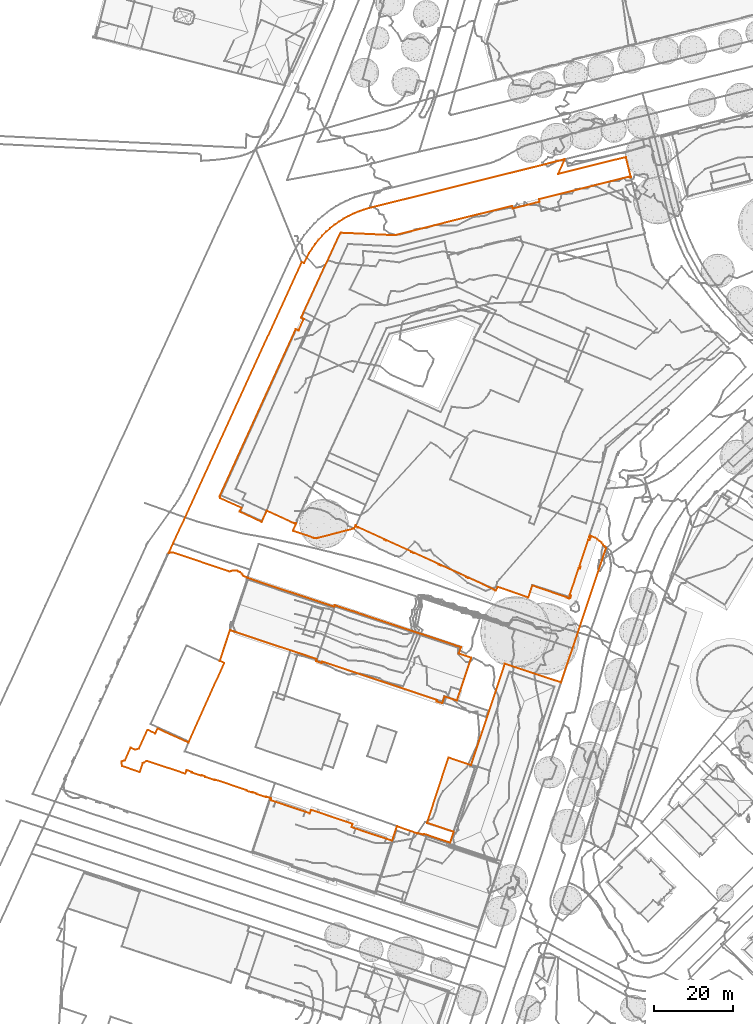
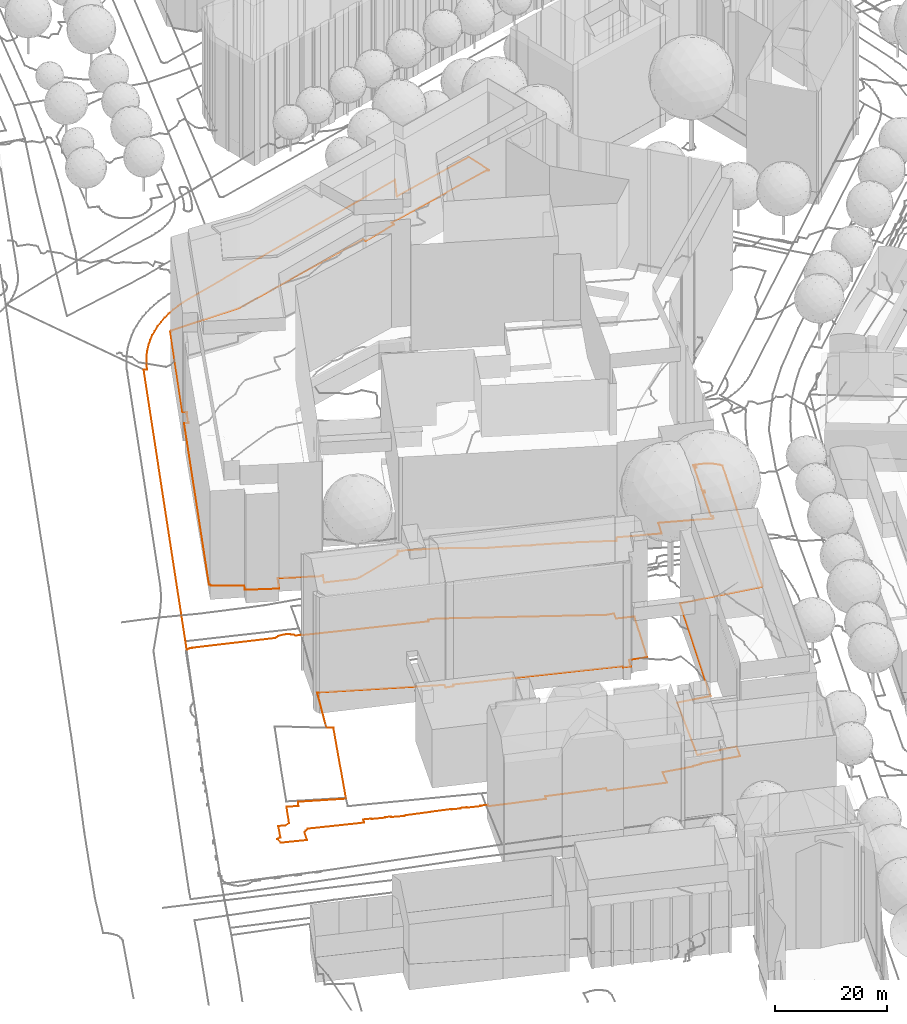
# Not in any storey, part 98 of 494: 1 proxy.
"""IFC2X3 model written with IfcOpenShell, lengths in metres."""

from ifc_helpers import new_model, entity, si_unit, frame, origin_with_axes, place, context, subcontext, project, element, save


model = new_model("IFC2X3")

# Units and contexts
model_context = context("Model", 3, precision=1e-05, world=origin_with_axes())
body_context = subcontext(model_context, "Body", "Model", "MODEL_VIEW")
ifc_project = project(units=[si_unit("AREAUNIT", "SQUARE_METRE"), si_unit("LENGTHUNIT", "METRE")], contexts=[model_context])

# Proxy
proxy_placement = place(None, frame((-44.9892679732, 153.6817160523, 527.5269118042), z_axis=(0.0, 0.0, 1.0), x_axis=(1.0, 0.0, 0.0)))
element("IfcBuildingElementProxy", 1, at=proxy_placement, Name="Roads Outline 7", ObjectType="NOTDEFINED", context=body_context, shape_type="GeometricCurveSet", body=[
    entity("IfcGeometricCurveSet", [entity("IfcPolyline", [entity("IfcCartesianPoint", [0.0, 0.0, 0.0]), entity("IfcCartesianPoint", [0.2429999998, 0.0930000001, -3.97339e-05]), entity("IfcCartesianPoint", [0.5979999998, 0.2290000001, -9.78394e-05]), entity("IfcCartesianPoint", [0.7620000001, 0.1560000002, -6.66504e-05]), entity("IfcCartesianPoint", [2.2399999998, 3.473, -0.0022536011]), entity("IfcCartesianPoint", [3.3539999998, 2.9770000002, -0.0022023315]), entity("IfcCartesianPoint", [4.3709999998, 3.318, -0.0022536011]), entity("IfcCartesianPoint", [6.5619999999, 8.0460000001, -0.0839130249]), entity("IfcCartesianPoint", [8.531, 7.135, -0.0652377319]), entity("IfcCartesianPoint", [9.1030000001, 8.3690000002, -0.0887233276]), entity("IfcCartesianPoint", [16.9929999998, 4.7920000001, -0.0132811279]), entity("IfcCartesianPoint", [26.0989999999, 25.1000000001, 0.0330283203]), entity("IfcCartesianPoint", [24.9709999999, 25.615, 0.0477704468]), entity("IfcCartesianPoint", [27.5639999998, 33.3960000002, 2.1289497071]), entity("IfcCartesianPoint", [49.6749999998, 26.0790000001, 0.4784908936]), entity("IfcCartesianPoint", [49.4950000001, 25.541, 0.3115805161]), entity("IfcCartesianPoint", [49.5809999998, 25.5120000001, 0.3105062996]), entity("IfcCartesianPoint", [50.9079999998, 25.0690000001, 0.3691649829]), entity("IfcCartesianPoint", [51.0249999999, 25.4200000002, 0.4877984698]), entity("IfcCartesianPoint", [80.395, 15.6070000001, 0.1663693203]), entity("IfcCartesianPoint", [80.2760000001, 15.2550000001, 0.1662325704]), entity("IfcCartesianPoint", [81.6239999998, 14.8050000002, 0.1895435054]), entity("IfcCartesianPoint", [82.199, 16.523, 0.357683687]), entity("IfcCartesianPoint", [85.3730000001, 15.4620000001, 0.5050322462]), entity("IfcCartesianPoint", [89.0389999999, 26.4060000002, 1.4587229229]), entity("IfcCartesianPoint", [85.8689999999, 27.4790000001, 1.4710793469]), entity("IfcCartesianPoint", [86.4040000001, 29.0970000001, 1.4060519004]), entity("IfcCartesianPoint", [84.997, 29.5530000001, 1.3153294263]), entity("IfcCartesianPoint", [55.5899999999, 39.3300000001, 4.86257316]), entity("IfcCartesianPoint", [54.3390000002, 39.7440000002, 4.8775936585]), entity("IfcCartesianPoint", [54.176, 39.7980000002, 4.8790784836]), entity("IfcCartesianPoint", [54.0469999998, 39.409, 4.7497140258]), entity("IfcCartesianPoint", [32.0129999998, 46.74, 5.0022215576]), entity("IfcCartesianPoint", [32.0490000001, 46.8490000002, 5.0026939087]), entity("IfcCartesianPoint", [31.057, 47.1800000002, 5.002531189]), entity("IfcCartesianPoint", [30.8199999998, 47.564, 5.000984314]), entity("IfcCartesianPoint", [30.5219999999, 47.9030000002, 4.9996187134]), entity("IfcCartesianPoint", [30.1699999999, 48.186, 4.991625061]), entity("IfcCartesianPoint", [29.7760000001, 48.4060000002, 4.983085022]), entity("IfcCartesianPoint", [29.3509999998, 48.557, 4.9772234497]), entity("IfcCartesianPoint", [28.977, 48.6260000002, 4.9745449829]), entity("IfcCartesianPoint", [28.5979999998, 48.6410000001, 4.9739627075]), entity("IfcCartesianPoint", [28.2199999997, 48.6020000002, 4.9754766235]), entity("IfcCartesianPoint", [27.852, 48.51, 4.9790479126]), entity("IfcCartesianPoint", [27.5, 48.3670000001, 4.984598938]), entity("IfcCartesianPoint", [13.077, 53.1830000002, 4.9722063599]), entity("IfcCartesianPoint", [13.068, 53.155, 4.9713381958]), entity("IfcCartesianPoint", [12.787, 53.2350000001, 4.9738186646]), entity("IfcCartesianPoint", [12.4939999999, 53.2410000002, 4.9740046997]), entity("IfcCartesianPoint", [12.21, 53.172, 4.9718652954]), entity("IfcCartesianPoint", [12.074, 53.1090000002, 4.9699119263]), entity("IfcCartesianPoint", [11.946, 53.03, 4.9674624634]), entity("IfcCartesianPoint", [13.0490000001, 55.4410000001, 5.0357442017]), entity("IfcCartesianPoint", [45.858, 127.213, 9.3617725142]), entity("IfcCartesianPoint", [46.4270000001, 126.966, 9.3489542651]), entity("IfcCartesianPoint", [47.037, 128.2310000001, 9.4359046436]), entity("IfcCartesianPoint", [47.7179999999, 129.4610000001, 9.5883048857]), entity("IfcCartesianPoint", [48.466, 130.6500000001, 9.6872048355]), entity("IfcCartesianPoint", [49.281, 131.7950000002, 9.7719261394]), entity("IfcCartesianPoint", [50.1579999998, 132.892, 9.8597721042]), entity("IfcCartesianPoint", [51.0949999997, 133.939, 9.9155481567]), entity("IfcCartesianPoint", [52.0899999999, 134.9310000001, 9.9998819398]), entity("IfcCartesianPoint", [53.139, 135.8660000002, 10.0029211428]), entity("IfcCartesianPoint", [54.2390000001, 136.74, 10.1154349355]), entity("IfcCartesianPoint", [55.3859999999, 137.5520000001, 10.1718491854]), entity("IfcCartesianPoint", [56.577, 138.297, 10.2006110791]), entity("IfcCartesianPoint", [57.8079999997, 138.9740000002, 10.2688017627]), entity("IfcCartesianPoint", [59.0750000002, 139.5820000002, 10.2946018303]), entity("IfcCartesianPoint", [60.3739999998, 140.1170000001, 10.3372699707]), entity("IfcCartesianPoint", [61.7009999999, 140.578, 10.4007736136]), entity("IfcCartesianPoint", [63.0520000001, 140.9640000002, 10.4372722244]), entity("IfcCartesianPoint", [112.8730000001, 153.3870000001, 11.4932763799]), entity("IfcCartesianPoint", [111.1349999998, 149.6700000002, 10.730469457]), entity("IfcCartesianPoint", [128.4270000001, 153.9720000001, 10.669809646]), entity("IfcCartesianPoint", [129.7229999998, 148.8030000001, 10.4769594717]), entity("IfcCartesianPoint", [129.5579999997, 148.7620000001, 10.4805641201]), entity("IfcCartesianPoint", [129.4329999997, 148.848, 10.4872223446]), entity("IfcCartesianPoint", [129.3960000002, 148.9990000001, 10.4940321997]), entity("IfcCartesianPoint", [128.8139999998, 148.8530000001, 10.4964823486]), entity("IfcCartesianPoint", [106.3190000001, 143.2350000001, 10.5661456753]), entity("IfcCartesianPoint", [106.4840000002, 142.574, 10.5412714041]), entity("IfcCartesianPoint", [99.6090000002, 140.8560000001, 10.3548988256]), entity("IfcCartesianPoint", [99.4440000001, 141.517, 10.4434186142]), entity("IfcCartesianPoint", [69.75, 134.101, 10.3742372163]), entity("IfcCartesianPoint", [69.193, 134.0490000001, 10.3794457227]), entity("IfcCartesianPoint", [55.824, 134.6710000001, 9.8819341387]), entity("IfcCartesianPoint", [55.8169999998, 134.5010000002, 9.8693487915]), entity("IfcCartesianPoint", [55.727, 134.4300000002, 9.8659746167]), entity("IfcCartesianPoint", [55.5720000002, 134.5010000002, 9.8746773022]), entity("IfcCartesianPoint", [45.6770000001, 113.0330000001, 8.7213396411]), entity("IfcCartesianPoint", [46.406, 112.7000000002, 8.704925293]), entity("IfcCartesianPoint", [46.2659999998, 112.3930000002, 8.6941912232]), entity("IfcCartesianPoint", [46.21, 112.419, 8.6975355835]), entity("IfcCartesianPoint", [45.1200000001, 110.0480000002, 8.5999082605]), entity("IfcCartesianPoint", [45.1809999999, 110.02, 8.5998769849]), entity("IfcCartesianPoint", [45.0559999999, 109.746, 8.5775127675]), entity("IfcCartesianPoint", [44.318, 110.0820000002, 8.5655002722]), entity("IfcCartesianPoint", [24.8819999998, 67.4820000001, 5.9784912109]), entity("IfcCartesianPoint", [25.0359999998, 67.4110000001, 5.9710765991]), entity("IfcCartesianPoint", [25.0729999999, 67.2510000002, 5.9543676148]), entity("IfcCartesianPoint", [25.0019999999, 67.0970000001, 5.9382852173]), entity("IfcCartesianPoint", [30.4869999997, 64.5860000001, 5.5750006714]), entity("IfcCartesianPoint", [30.0239999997, 63.6270000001, 5.3738397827]), entity("IfcCartesianPoint", [35.611, 61.0040000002, 5.2716972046]), entity("IfcCartesianPoint", [36.9550000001, 63.865, 5.3666201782]), entity("IfcCartesianPoint", [43.5789999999, 60.7850000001, 5.2742866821]), entity("IfcCartesianPoint", [44.1260000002, 60.5350000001, 5.2782387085]), entity("IfcCartesianPoint", [44.196, 60.689, 5.2757097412]), entity("IfcCartesianPoint", [44.3289999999, 60.7380000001, 5.2748253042]), entity("IfcCartesianPoint", [44.4840000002, 60.6670000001, 5.2748345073]), entity("IfcCartesianPoint", [43.611, 58.76, 5.1604270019]), entity("IfcCartesianPoint", [43.838, 58.6840000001, 5.1556538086]), entity("IfcCartesianPoint", [48.673, 57.0390000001, 5.151483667]), entity("IfcCartesianPoint", [49.0120000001, 56.9540000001, 5.1290744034]), entity("IfcCartesianPoint", [49.3590000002, 56.9110000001, 5.1370450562]), entity("IfcCartesianPoint", [49.7889999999, 56.915, 5.1757056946]), entity("IfcCartesianPoint", [50.2140000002, 56.9850000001, 5.2137853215]), entity("IfcCartesianPoint", [58.9350000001, 59.2860000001, 5.4536117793]), entity("IfcCartesianPoint", [59.1880000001, 59.3530000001, 5.4843065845]), entity("IfcCartesianPoint", [59.554, 60.1540000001, 5.7155300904]), entity("IfcCartesianPoint", [59.7089999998, 60.0820000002, 5.7393702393]), entity("IfcCartesianPoint", [59.764, 59.9670000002, 5.7270656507]), entity("IfcCartesianPoint", [59.6850000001, 59.7960000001, 5.6728024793]), entity("IfcCartesianPoint", [60.2319999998, 59.5450000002, 5.7452426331]), entity("IfcCartesianPoint", [60.2799999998, 59.649, 5.7793715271]), entity("IfcCartesianPoint", [66.8560000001, 56.6330000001, 5.8236779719]), entity("IfcCartesianPoint", [66.8079999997, 56.5280000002, 5.8115976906]), entity("IfcCartesianPoint", [67.3530000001, 56.2780000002, 5.7976999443]), entity("IfcCartesianPoint", [67.4010000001, 56.3830000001, 5.8039206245]), entity("IfcCartesianPoint", [73.8199999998, 53.439, 5.3748781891]), entity("IfcCartesianPoint", [73.7710000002, 53.334, 5.3711739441]), entity("IfcCartesianPoint", [74.318, 53.0830000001, 5.3657123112]), entity("IfcCartesianPoint", [74.3659999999, 53.189, 5.3698321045]), entity("IfcCartesianPoint", [80.818, 50.2280000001, 5.4194081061]), entity("IfcCartesianPoint", [80.7689999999, 50.121, 5.4141170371]), entity("IfcCartesianPoint", [81.3139999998, 49.871, 5.421946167]), entity("IfcCartesianPoint", [81.3629999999, 49.9780000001, 5.4272388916]), entity("IfcCartesianPoint", [87.7909999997, 47.03, 5.5193775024]), entity("IfcCartesianPoint", [87.7409999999, 46.922, 5.5138522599]), entity("IfcCartesianPoint", [88.2859999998, 46.672, 5.521821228]), entity("IfcCartesianPoint", [88.3360000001, 46.78, 5.5271799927]), entity("IfcCartesianPoint", [94.7689999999, 43.828, 5.3882046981]), entity("IfcCartesianPoint", [94.719, 43.72, 5.3842139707]), entity("IfcCartesianPoint", [95.2659999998, 43.469, 5.3807204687]), entity("IfcCartesianPoint", [95.7539999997, 44.466, 5.4313705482]), entity("IfcCartesianPoint", [103.5609999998, 41.7650000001, 5.1915988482]), entity("IfcCartesianPoint", [104.605, 44.8120000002, 5.2964069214]), entity("IfcCartesianPoint", [113.3810000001, 41.8120000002, 4.9398628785]), entity("IfcCartesianPoint", [113.3420000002, 41.6980000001, 4.9295582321]), entity("IfcCartesianPoint", [113.9100000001, 41.5040000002, 4.8396308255]), entity("IfcCartesianPoint", [113.9649999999, 41.665, 4.8655922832]), entity("IfcCartesianPoint", [114.0890000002, 41.7270000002, 4.8671855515]), entity("IfcCartesianPoint", [114.25, 41.6730000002, 4.8314114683]), entity("IfcCartesianPoint", [114.446, 42.2580000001, 4.8934374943]), entity("IfcCartesianPoint", [114.085, 42.361, 4.931949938]), entity("IfcCartesianPoint", [116.3939999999, 49.2380000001, 5.0768067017]), entity("IfcCartesianPoint", [116.7489999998, 49.1190000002, 5.0595022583]), entity("IfcCartesianPoint", [116.9389999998, 49.6850000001, 5.0769133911]), entity("IfcCartesianPoint", [116.5839999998, 49.804, 5.0942178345]), entity("IfcCartesianPoint", [118.8429999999, 56.5290000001, 5.1572601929]), entity("IfcCartesianPoint", [119.2029999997, 56.425, 5.1894526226]), entity("IfcCartesianPoint", [119.3939999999, 56.9940000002, 5.1114123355]), entity("IfcCartesianPoint", [119.034, 57.098, 5.0927628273]), entity("IfcCartesianPoint", [119.1889999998, 57.5590000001, 5.099553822]), entity("IfcCartesianPoint", [119.8799999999, 57.294, 5.1408165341]), entity("IfcCartesianPoint", [120.5419999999, 56.9640000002, 5.2281930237]), entity("IfcCartesianPoint", [121.1699999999, 56.5720000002, 5.301596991]), entity("IfcCartesianPoint", [121.7569999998, 56.122, 5.3584451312]), entity("IfcCartesianPoint", [122.2039999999, 55.7140000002, 5.4204450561]), entity("IfcCartesianPoint", [122.6170000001, 55.2710000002, 5.4628397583]), entity("IfcCartesianPoint", [122.9939999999, 54.7980000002, 5.4763057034]), entity("IfcCartesianPoint", [123.3319999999, 54.2960000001, 5.4636350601]), entity("IfcCartesianPoint", [122.3309999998, 51.3020000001, 5.4780265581]), entity("IfcCartesianPoint", [114.801, 28.7930000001, 4.0766587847]), entity("IfcCartesianPoint", [111.898, 20.108, 3.7661754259]), entity("IfcCartesianPoint", [97.5979999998, 24.885, 2.2364851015]), entity("IfcCartesianPoint", [88.9739999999, -0.9579999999, 0.7065684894]), entity("IfcCartesianPoint", [83.219, 0.9650000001, 0.0839964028]), entity("IfcCartesianPoint", [77.7590000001, -15.672, 0.6686078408]), entity("IfcCartesianPoint", [84.5929999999, -17.9249999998, 1.4952750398]), entity("IfcCartesianPoint", [83.6779999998, -20.699, 1.4030643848]), entity("IfcCartesianPoint", [76.8489999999, -18.4469999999, 0.8196425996]), entity("IfcCartesianPoint", [76.781, -18.656, 0.8347319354]), entity("IfcCartesianPoint", [75.406, -18.1949999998, 0.6290843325]), entity("IfcCartesianPoint", [75.344, -18.372, 0.6395585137]), entity("IfcCartesianPoint", [70.0929999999, -16.5129999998, 0.0992412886]), entity("IfcCartesianPoint", [68.8689999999, -20.216, 0.4949069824]), entity("IfcCartesianPoint", [58.5180000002, -16.7579999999, 0.2845406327]), entity("IfcCartesianPoint", [58.8029999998, -15.9039999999, 0.1813511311]), entity("IfcCartesianPoint", [48.2220000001, -12.3419999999, -0.0292769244]), entity("IfcCartesianPoint", [47.9240000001, -13.2349999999, 0.0588646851]), entity("IfcCartesianPoint", [37.9500000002, -9.909, -0.074362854]), entity("IfcCartesianPoint", [38.1140000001, -9.416, -0.0975023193]), entity("IfcCartesianPoint", [37.773, -9.3019999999, -0.1028530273]), entity("IfcCartesianPoint", [36.767, -8.9689999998, -0.1156141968]), entity("IfcCartesianPoint", [36.7199999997, -9.1109999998, -0.1118178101]), entity("IfcCartesianPoint", [34.318, -8.3119999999, -0.1015791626]), entity("IfcCartesianPoint", [34.3649999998, -8.1699999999, -0.0985457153]), entity("IfcCartesianPoint", [33.3789999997, -7.841, -0.0965706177]), entity("IfcCartesianPoint", [33.3319999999, -7.983, -0.0953832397]), entity("IfcCartesianPoint", [31.7659999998, -7.4619999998, -0.0997397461]), entity("IfcCartesianPoint", [31.8130000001, -7.3199999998, -0.100927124]), entity("IfcCartesianPoint", [23.6630000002, -4.608, -0.2884189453]), entity("IfcCartesianPoint", [23.6159999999, -4.75, -0.3082576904]), entity("IfcCartesianPoint", [21.2340000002, -3.9579999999, -0.2014734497]), entity("IfcCartesianPoint", [21.281, -3.8159999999, -0.1919917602]), entity("IfcCartesianPoint", [20.2939999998, -3.4879999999, -0.1700903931]), entity("IfcCartesianPoint", [20.247, -3.6299999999, -0.1795720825]), entity("IfcCartesianPoint", [17.8649999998, -2.8369999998, -0.1321864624]), entity("IfcCartesianPoint", [17.912, -2.6949999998, -0.1272462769]), entity("IfcCartesianPoint", [16.8840000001, -2.3529999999, -0.1153480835]), entity("IfcCartesianPoint", [16.4929999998, -2.223, -0.1108253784]), entity("IfcCartesianPoint", [16.196, -3.125, -0.1458519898]), entity("IfcCartesianPoint", [6.3829999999, 0.108, -4.61426e-05]), entity("IfcCartesianPoint", [5.7689999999, -0.2359999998, -0.0126845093]), entity("IfcCartesianPoint", [5.3539999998, -0.4679999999, -0.0257684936]), entity("IfcCartesianPoint", [4.5979999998, -2.7359999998, -0.1286726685]), entity("IfcCartesianPoint", [0.054, -1.189, -0.0647681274]), entity("IfcCartesianPoint", [0.0, 0.0, 0.0])])]),
])

save(model, "model.ifc")
